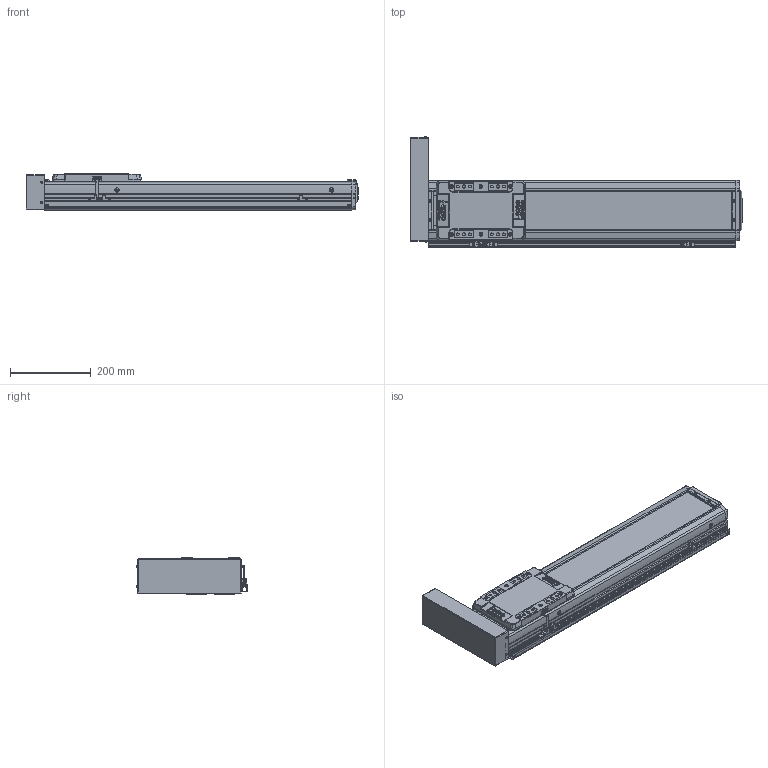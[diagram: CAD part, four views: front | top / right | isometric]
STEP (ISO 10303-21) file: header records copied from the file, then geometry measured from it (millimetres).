
FILE_DESCRIPTION(('STEP AP214'),'1');
FILE_NAME('Z:/Web/3D/SAN150/2013.04 (STP.)/SAN150ㅁㅁ-500PL+3SR.stp','2013-05-07T11:27:12',(' '),(' '),'Spatial InterOp 3D',' ',' ');
FILE_SCHEMA(('automotive_design'));
Length unit declared in the file: millimetre
Products named in the file (58): SLBL-SAN150; SLCV-SAN150; FHCS M4.0 x 8.0; BHCS M4.0 x 10.0; SFX-SAN150; RRCV-SAN150; FRBL-SAN150; Spacer; RN15; FRCV-SAN150; Screw 20; BASE-SAN150-000L ; SUS COVER; 스크루 : Round - M5.0 x 6.0; BHCS M3.0 x 6.0; P; M3.0 x 6.0; SRL-16x17-360L; SGD-SAN150; EE-SX674; SBK-SX674-352; 스크루 : Round - M3.0 x 6.0
Bounding box: 820 x 273.36 x 90 mm (x, y, z)
Volume: 5591880 mm3; surface area: 1028532.7 mm2
Topology: 58 solids, 58 shells, 2634 faces, 6773 edges, 4350 vertices
Faces by surface type: plane 1392, cylinder 855, cone 274, sphere 80, bspline 21, torus 12
Entity records: 104130 total; most frequent: CARTESIAN_POINT 16421, DIRECTION 14328, ORIENTED_EDGE 13314, EDGE_CURVE 6657, AXIS2_PLACEMENT_3D 5084, VERTEX_POINT 4350, LINE 4160, VECTOR 4160
